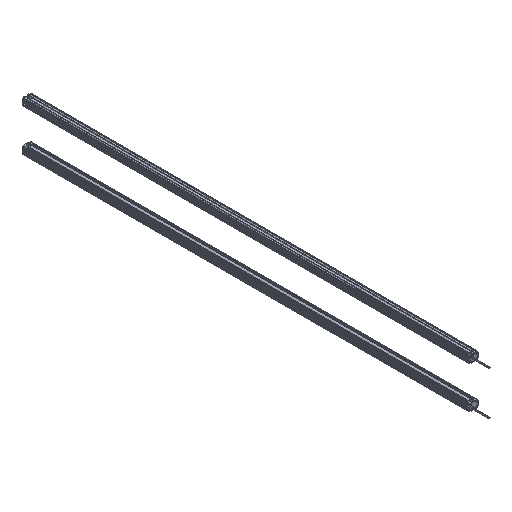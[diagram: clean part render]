
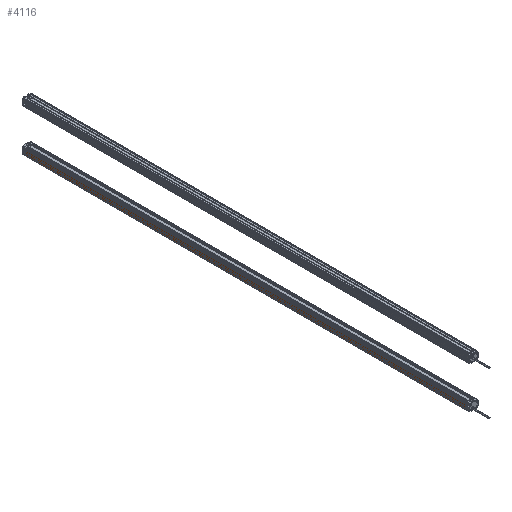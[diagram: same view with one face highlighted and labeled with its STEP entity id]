
A CAD part, isometric view. The second image highlights one B-rep face of the part: STEP entity #4116.
In plain terms, the highlighted planar face has unit normal (-1, 0, 0).
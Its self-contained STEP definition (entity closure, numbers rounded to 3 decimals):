
#733 = DIRECTION ( 'NONE',  ( 0., 0., 1. ) ) ;
#906 = EDGE_CURVE ( 'NONE', #3942, #5448, #5585, .T. ) ;
#1394 = CARTESIAN_POINT ( 'NONE',  ( -12.5, -1280., 8.293 ) ) ;
#1500 = DIRECTION ( 'NONE',  ( 0., 1., 0. ) ) ;
#2173 = CARTESIAN_POINT ( 'NONE',  ( -12.5, 0., -9.2 ) ) ;
#2229 = VECTOR ( 'NONE', #7274, 1000. ) ;
#2539 = EDGE_CURVE ( 'NONE', #5919, #9058, #10615, .T. ) ;
#2870 = LINE ( 'NONE', #1394, #2229 ) ;
#2966 = DIRECTION ( 'NONE',  ( 0., 0., 1. ) ) ;
#3176 = FACE_OUTER_BOUND ( 'NONE', #10628, .T. ) ;
#3275 = CARTESIAN_POINT ( 'NONE',  ( -12.5, 0., -9.2 ) ) ;
#3612 = VECTOR ( 'NONE', #2966, 1000. ) ;
#3806 = PLANE ( 'NONE',  #9726 ) ;
#3854 = CARTESIAN_POINT ( 'NONE',  ( -12.5, -1280., -9.2 ) ) ;
#3942 = VERTEX_POINT ( 'NONE', #3854 ) ;
#4116 = ADVANCED_FACE ( 'NONE', ( #3176 ), #3806, .T. ) ;
#4176 = ORIENTED_EDGE ( 'NONE', *, *, #2539, .F. ) ;
#4539 = VECTOR ( 'NONE', #10650, 1000. ) ;
#4807 = DIRECTION ( 'NONE',  ( -1., 0., 0. ) ) ;
#5448 = VERTEX_POINT ( 'NONE', #9874 ) ;
#5576 = CARTESIAN_POINT ( 'NONE',  ( -12.5, -1280., -9.2 ) ) ;
#5585 = LINE ( 'NONE', #8104, #4539 ) ;
#5696 = VECTOR ( 'NONE', #1500, 1000. ) ;
#5919 = VERTEX_POINT ( 'NONE', #3275 ) ;
#7274 = DIRECTION ( 'NONE',  ( 0., 1., 0. ) ) ;
#7368 = ORIENTED_EDGE ( 'NONE', *, *, #9036, .F. ) ;
#7406 = CARTESIAN_POINT ( 'NONE',  ( -12.5, 0., 8.293 ) ) ;
#7962 = LINE ( 'NONE', #8202, #5696 ) ;
#8009 = ORIENTED_EDGE ( 'NONE', *, *, #906, .T. ) ;
#8104 = CARTESIAN_POINT ( 'NONE',  ( -12.5, -1280., -9.2 ) ) ;
#8146 = ORIENTED_EDGE ( 'NONE', *, *, #10021, .T. ) ;
#8202 = CARTESIAN_POINT ( 'NONE',  ( -12.5, -1280., -9.2 ) ) ;
#9036 = EDGE_CURVE ( 'NONE', #3942, #5919, #7962, .T. ) ;
#9058 = VERTEX_POINT ( 'NONE', #7406 ) ;
#9726 = AXIS2_PLACEMENT_3D ( 'NONE', #5576, #4807, #733 ) ;
#9874 = CARTESIAN_POINT ( 'NONE',  ( -12.5, -1280., 8.293 ) ) ;
#10021 = EDGE_CURVE ( 'NONE', #5448, #9058, #2870, .T. ) ;
#10615 = LINE ( 'NONE', #2173, #3612 ) ;
#10628 = EDGE_LOOP ( 'NONE', ( #4176, #7368, #8009, #8146 ) ) ;
#10650 = DIRECTION ( 'NONE',  ( 0., 0., 1. ) ) ;
